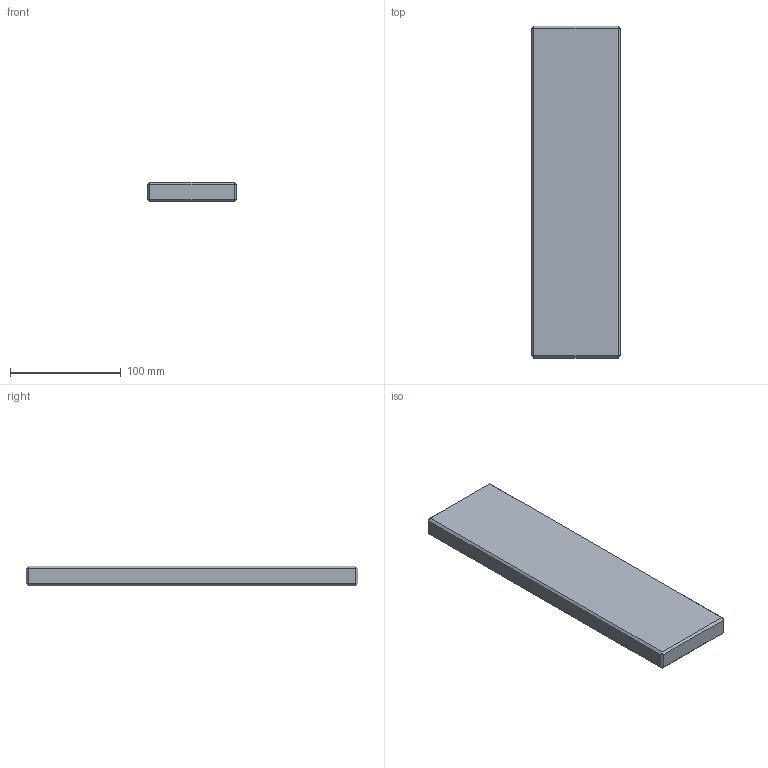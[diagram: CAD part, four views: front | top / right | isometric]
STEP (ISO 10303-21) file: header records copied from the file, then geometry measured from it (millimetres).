
FILE_DESCRIPTION(('Open CASCADE Model'),'2;1');
FILE_NAME('Open CASCADE Shape Model','2026-09-27T15:56:05',('Author'),( 'Open CASCADE'),'Open CASCADE STEP processor 7.9','Open CASCADE 7.9' ,'Unknown');
FILE_SCHEMA(('AUTOMOTIVE_DESIGN { 1 0 10303 214 1 1 1 1 }'));
Length unit declared in the file: millimetre
Products named in the file (1): Open CASCADE STEP translator 7.9 21
Bounding box: 80 x 300 x 18 mm (x, y, z)
Volume: 428858.7 mm3; surface area: 59802.8 mm2
Topology: 1 solids, 1 shells, 26 faces, 48 edges, 24 vertices
Faces by surface type: plane 26
Entity records: 1234 total; most frequent: DIRECTION 198, CARTESIAN_POINT 195, LINE 144, VECTOR 144, ORIENTED_EDGE 96, PCURVE 96, DEFINITIONAL_REPRESENTATION 96, EDGE_CURVE 48
